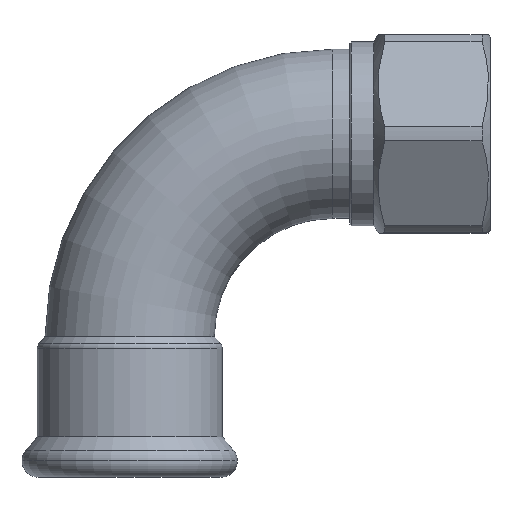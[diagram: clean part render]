
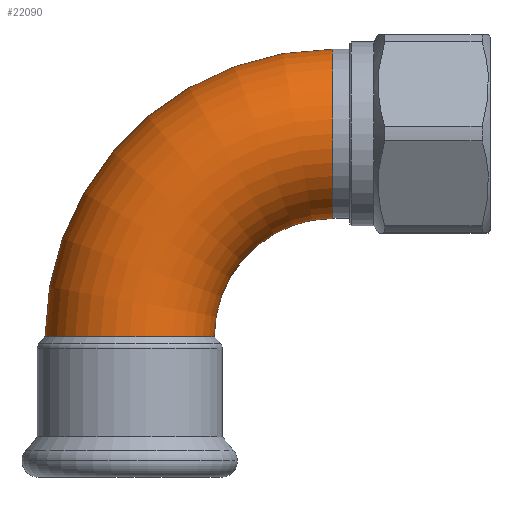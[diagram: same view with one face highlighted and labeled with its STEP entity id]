
A CAD part, top view. The second image highlights one B-rep face of the part: STEP entity #22090.
In plain terms, the highlighted toroidal (fillet/blend) face has major radius 42 mm and minor radius 17.5 mm.
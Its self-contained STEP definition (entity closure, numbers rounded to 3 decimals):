
#9800=CARTESIAN_POINT('',(-137.071,-473.955,
0.));
#9810=DIRECTION('',(0.,-1.,0.));
#9820=DIRECTION('',(1.,0.,0.));
#9830=AXIS2_PLACEMENT_3D('',#9800,#9810,#9820);
#9840=CIRCLE('',#9830,17.5);
#9850=CARTESIAN_POINT('',(-119.571,-473.955,
0.));
#9860=VERTEX_POINT('',#9850);
#9870=CARTESIAN_POINT('',(-154.571,-473.955,
0.));
#9880=VERTEX_POINT('',#9870);
#9890=EDGE_CURVE('',#9860,#9880,#9840,.T.);
#14150=CARTESIAN_POINT('',(-95.071,-473.955,
0.));
#14160=DIRECTION('',(0.,0.,1.));
#14170=DIRECTION('',(0.,1.,0.));
#14180=AXIS2_PLACEMENT_3D('',#14150,#14160,#14170);
#14190=TOROIDAL_SURFACE('',#14180,42.,17.5);
#14200=CARTESIAN_POINT('',(-95.071,-473.955,
0.));
#14210=DIRECTION('',(0.,0.,1.));
#14220=DIRECTION('',(0.,1.,0.));
#14230=AXIS2_PLACEMENT_3D('',#14200,#14210,#14220);
#14240=CIRCLE('',#14230,24.5);
#14250=CARTESIAN_POINT('',(-95.071,-449.455,
0.));
#14260=VERTEX_POINT('',#14250);
#14270=EDGE_CURVE('',#14260,#9860,#14240,.T.);
#14340=CARTESIAN_POINT('',(-95.071,-414.455,
0.));
#14350=VERTEX_POINT('',#14340);
#14380=CARTESIAN_POINT('',(-95.071,-473.955,
0.));
#14390=DIRECTION('',(0.,0.,1.));
#14400=DIRECTION('',(0.,1.,0.));
#14410=AXIS2_PLACEMENT_3D('',#14380,#14390,#14400);
#14420=CIRCLE('',#14410,59.5);
#14430=EDGE_CURVE('',#14350,#9880,#14420,.T.);
#20920=CARTESIAN_POINT('',(-95.071,-431.955,
0.));
#20930=DIRECTION('',(-1.,0.,0.));
#20940=DIRECTION('',(0.,-1.,0.));
#20950=AXIS2_PLACEMENT_3D('',#20920,#20930,#20940);
#20960=CIRCLE('',#20950,17.5);
#20970=EDGE_CURVE('',#14260,#14350,#20960,.T.);
#22030=ORIENTED_EDGE('',*,*,#9890,.F.);
#22040=ORIENTED_EDGE('',*,*,#14430,.T.);
#22050=ORIENTED_EDGE('',*,*,#20970,.T.);
#22060=ORIENTED_EDGE('',*,*,#14270,.F.);
#22070=EDGE_LOOP('',(#22060,#22050,#22040,#22030));
#22080=FACE_OUTER_BOUND('',#22070,.T.);
#22090=ADVANCED_FACE('',(#22080),#14190,.T.);
